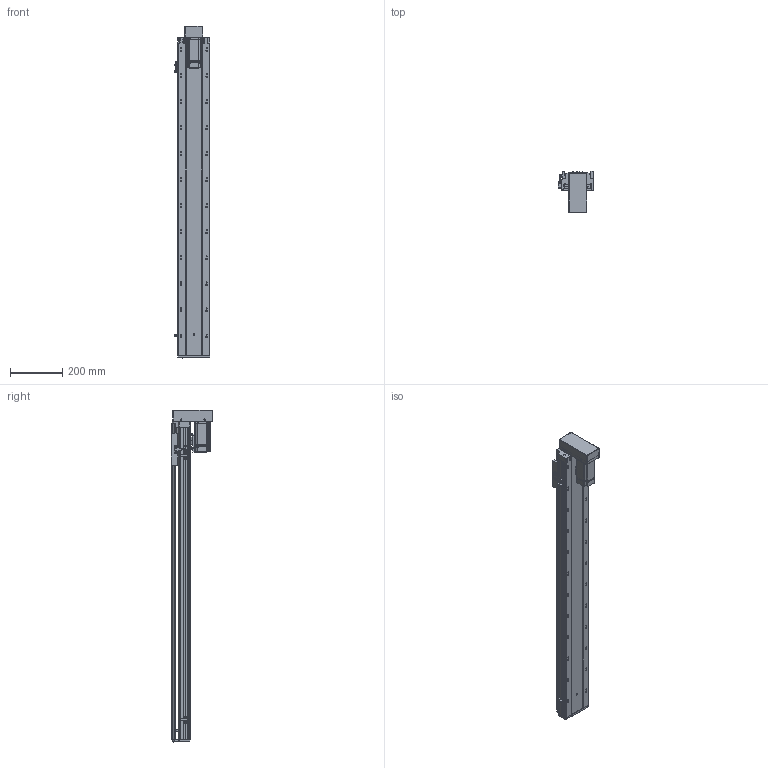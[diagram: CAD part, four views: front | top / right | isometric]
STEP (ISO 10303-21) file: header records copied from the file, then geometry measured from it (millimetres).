
FILE_DESCRIPTION (( 'STEP AP203' ), '1' );
FILE_NAME ('RY120-L2020-1000-BK.SLDASM_1000.step', '2021-03-12T07:19:57', ( '盈信电脑' ), ( '东莞市道滘镇水果街19号' ), 'SwSTEP 2.0', 'SolidWorks 2012', '' );
FILE_SCHEMA (( 'CONFIG_CONTROL_DESIGN' ));
Length unit declared in the file: millimetre
Products named in the file (21): RY120臏賑輸(20蹟譫); RY120綴裔啣; RY120-1000-BK蛌殏倰第奻裔啣_1000; RY120-1000-BK蛌殏倰第菁釱_1000; RY120狟殏萇儂欶; RY120-400W萇儂傷-BK; RY120-L2020-1000-BK.SLDASM_1000; RY120下折折电机安装板; 13; 侂狟400W侜督萇儂; 14; 12; 10; 16; 11; RY120外置感应片(140共用）; 滅袉蝶18-24; 15; RY120转拆电端丝杆支撑座(20丝杆，7002轴承); 滅袉蝶18-10; 覜茼ん672
Assembly tree (23 placements, depth 4):
  RY120-L2020-1000-BK.SLDASM_1000
    RY120-1000-BK蛌殏倰第菁釱_1000
    RY120-1000-BK蛌殏倰第奻裔啣_1000
    RY120臏賑輸(20蹟譫)
    RY120綴裔啣
    覜茼ん672  x3
    滅袉蝶18-10
    滅袉蝶18-24  x2
    RY120外置感应片(140共用）
    RY120转拆电端丝杆支撑座(20丝杆，7002轴承)
    RY120-400W萇儂傷-BK
      侂狟400W侜督萇儂
        15
        16
        10
        11
        12
        13
        14
      RY120狟殏萇儂欶
      RY120下折折电机安装板
Bounding box: 135.7 x 159.5 x 1275 mm (x, y, z)
Volume: 3548689.9 mm3; surface area: 1322709.5 mm2
Topology: 22 solids, 22 shells, 3195 faces, 8757 edges, 5624 vertices
Faces by surface type: plane 1620, cylinder 1175, cone 269, bspline 131
Entity records: 108750 total; most frequent: CARTESIAN_POINT 31551, ORIENTED_EDGE 16170, DIRECTION 14683, EDGE_CURVE 8085, VERTEX_POINT 5292, VECTOR 4993, LINE 4993, AXIS2_PLACEMENT_3D 4845
